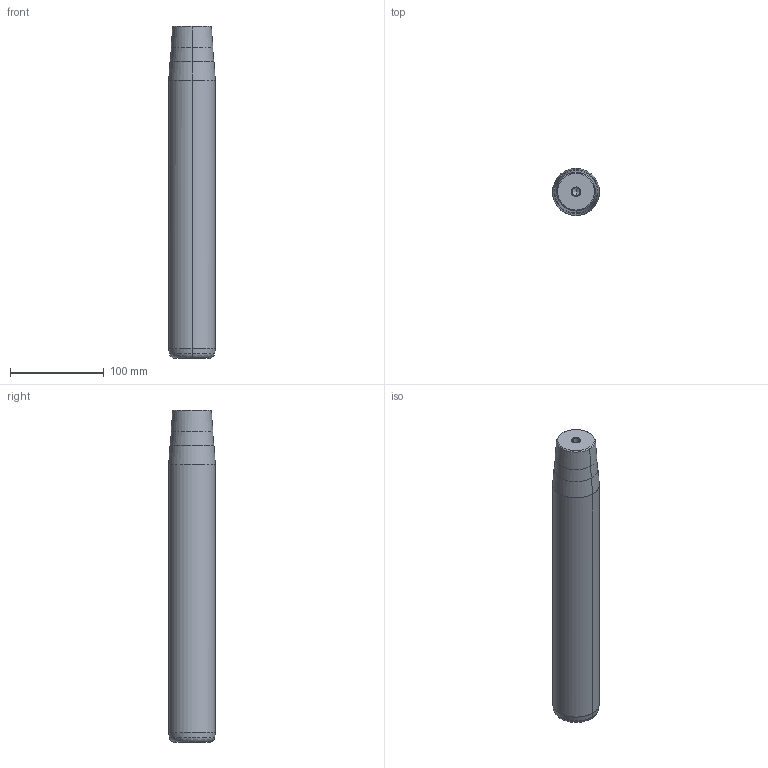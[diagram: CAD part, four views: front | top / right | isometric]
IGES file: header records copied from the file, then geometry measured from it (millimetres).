
Start section: START RECORD GO HERE.
Global section: file name: 722-50x315x355.igs; native system: DASSAULT SYSTEMES CATIA V5 R20 - www.3ds.com; preprocessor: CATIA Version 5 Release 20 ; author: Utente; organization: NB04-ASUS; date: 20210107.203706; units: millimetre
Bounding box: 50 x 50 x 355 mm (x, y, z)
Surface area: 59162.2 mm2 (no closed solid volume)
Topology: 0 solids, 0 shells, 32 faces, 192 edges, 188 vertices
Faces by surface type: revolution 30, plane 2
